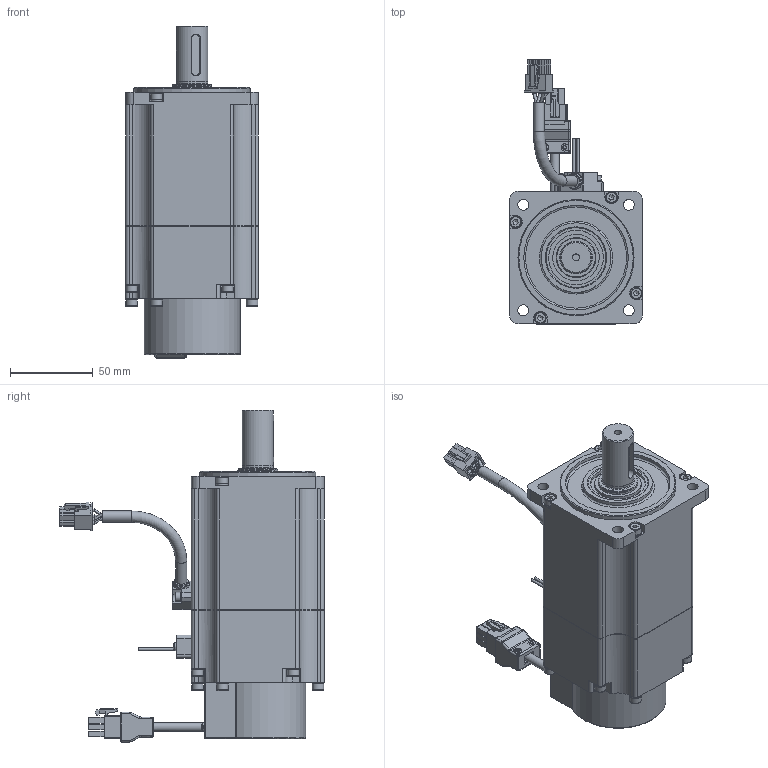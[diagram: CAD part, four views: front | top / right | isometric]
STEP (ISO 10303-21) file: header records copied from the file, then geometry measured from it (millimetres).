
FILE_DESCRIPTION(/* description */ (''),/* implementation_level */ '2;1');
FILE_NAME(/* name */ 'C:\Users\11755\Desktop\SME(磁編)\SME(磁編)_馬達外型圖(客戶版)\3D-STP\SME(磁編)-L075B_Shrinkwrap.stp',/* time_stamp */ '2021-07-29T18:18:10+08:00',/* author */ ('11755'),/* organization */ (''),/* preprocessor_version */ 'ST-DEVELOPER v17',/* originating_system */ 'Autodesk Inventor 2019',/* authorisation */ '');
FILE_SCHEMA (('AUTOMOTIVE_DESIGN { 1 0 10303 214 3 1 1 }'));
Products named in the file (1): SMC-L075B_Shrinkwrap_1
Bounding box: 80.07 x 159.35 x 200.2 mm (x, y, z)
Volume: 824053.7 mm3; surface area: 92815.2 mm2
Topology: 8 solids, 59 shells, 1880 faces, 5138 edges, 3419 vertices
Faces by surface type: plane 1143, cylinder 384, cone 165, bspline 105, torus 71, sphere 12
Full cylindrical faces by diameter (mm): 1.2 x4, 1.5 x2, 1.6 x2, 1.93 x4, 2 x4, 2.013 x2, 2.05 x1, 2.256 x2, 2.459 x2, 2.5 x6, 2.6 x9, 2.8 x2, 3 x6, 3.2 x2, 3.24 x4, 3.242 x16, 4 x12, 4.2 x3, 4.3 x12, 4.5 x12, 5 x2, 5.3 x1, 5.32 x2, 5.5 x2, 6.1 x2, 6.4 x1, 6.6 x4, 6.8 x3, 6.9 x12, 7 x13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
Entity records: 71767 total; most frequent: CARTESIAN_POINT 22185, ORIENTED_EDGE 10170, DIRECTION 9685, EDGE_CURVE 5085, VERTEX_POINT 3414, AXIS2_PLACEMENT_3D 3374, LINE 2937, VECTOR 2937
